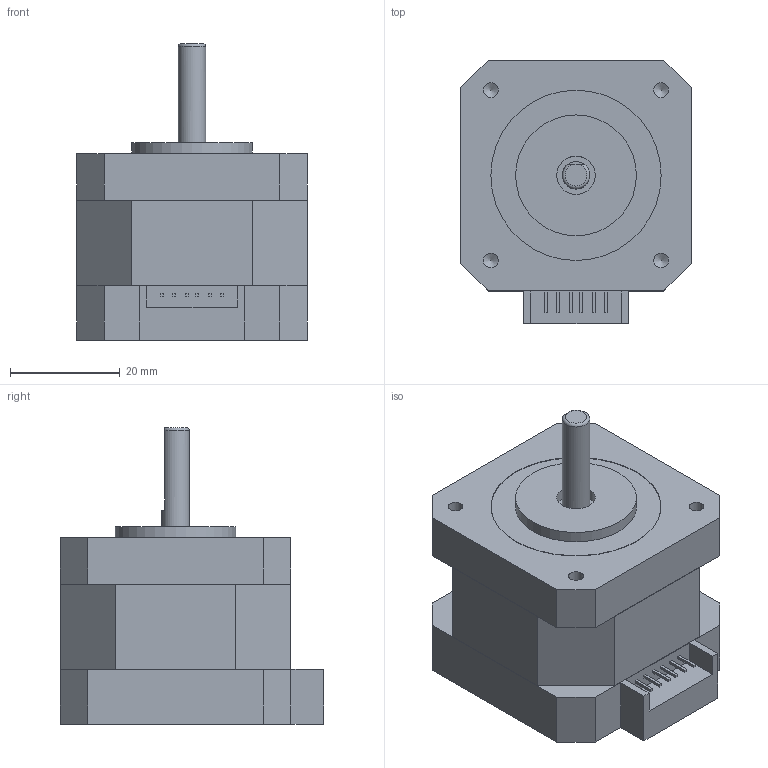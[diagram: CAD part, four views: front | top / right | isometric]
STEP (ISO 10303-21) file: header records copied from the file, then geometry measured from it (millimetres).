
FILE_DESCRIPTION(/* description */ (''),/* implementation_level */ '2;1');
FILE_NAME(/* name */ 'STP-43D1079.stp',/* time_stamp */ '2018-08-13T09:41:01+08:00',/* author */ (''),/* organization */ (''),/* preprocessor_version */ 'ST-DEVELOPER v11',/* originating_system */ 'SIEMENS UGS NX 6.0',/* authorisation */ '');
FILE_SCHEMA (('CONFIG_CONTROL_DESIGN'));
Length unit declared in the file: millimetre
Products named in the file (1): STP-43D1079
Bounding box: 42 x 48 x 54 mm (x, y, z)
Volume: 57317.5 mm3; surface area: 10309.1 mm2
Topology: 1 solids, 2 shells, 160 faces, 399 edges, 267 vertices
Faces by surface type: plane 134, cylinder 17, cone 8, torus 1
Full cylindrical faces by diameter (mm): 2.7 x4, 4.414 x4, 5 x3, 7 x3, 8.5 x1, 22 x1, 31 x1
Entity records: 4535 total; most frequent: CARTESIAN_POINT 782, DIRECTION 717, ORIENTED_EDGE 714, EDGE_CURVE 357, LINE 315, VECTOR 315, VERTEX_POINT 254, EDGE_LOOP 209
